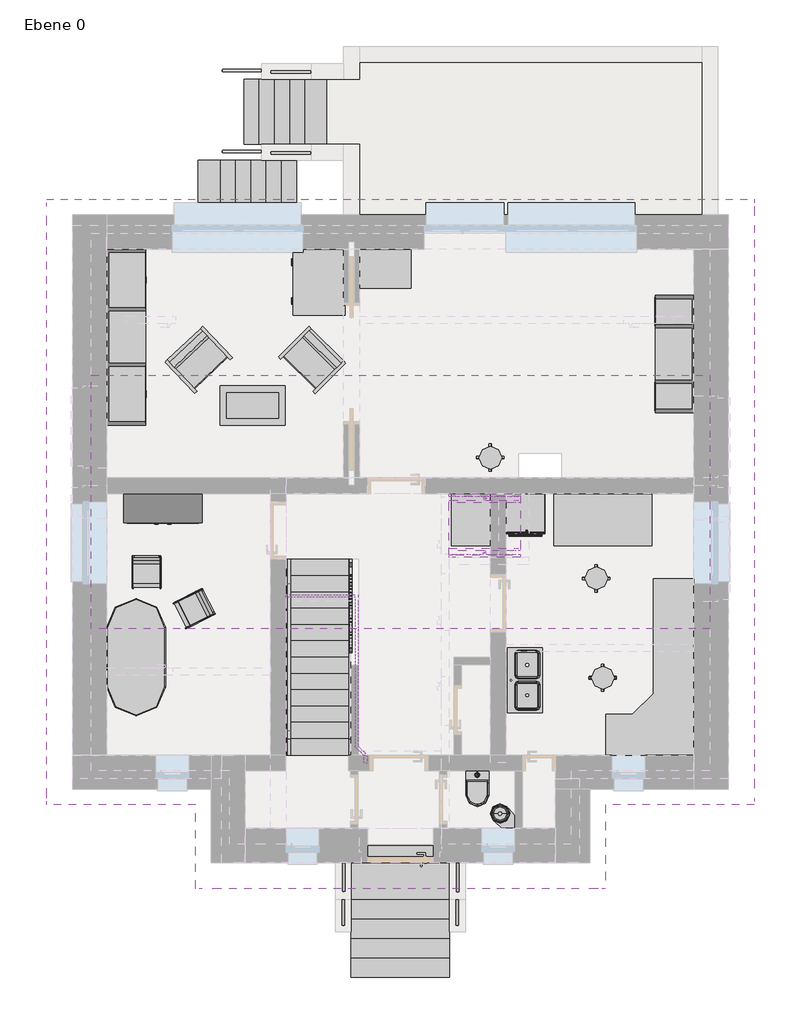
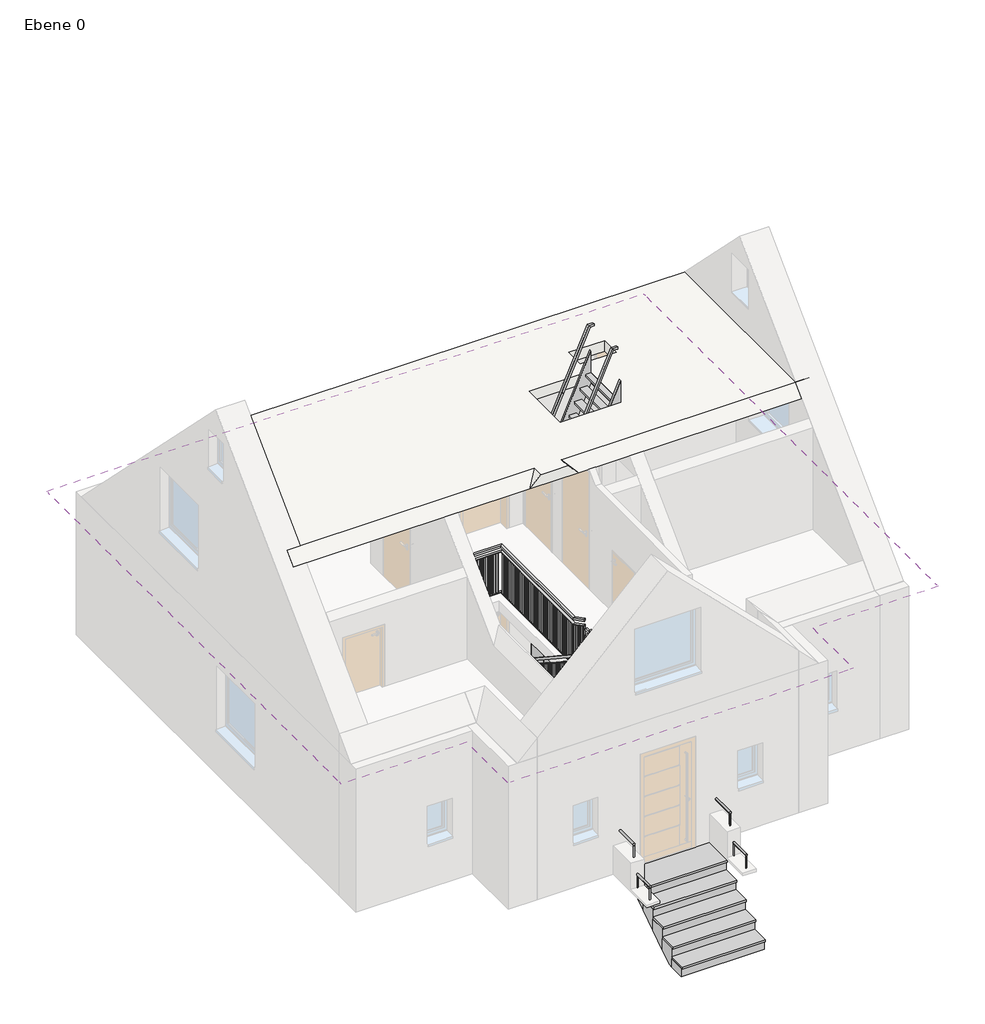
# One storey, part 3 of 3: 17 furniture elements, 16 railings, 5 stair flights, 4 members, 3 flow terminals, 2 proxies, 2 slabs, 1 roof.
"""IFC4 building model written with IfcOpenShell, lengths in millimetres."""

from ifc_helpers import new_model, si_unit, frame, origin, place, context, project, spatial, polyline, outline, extrude, faceted_brep, transform, mapped, element, save
from components import electrical_equipment_04802fdb, electrical_equipment_621d5f77, flow_terminal_1000_x_535_82328010, flow_terminal_35_x_55cm_6441f3d0, waschbecken_03_waschbecken_093a886d, furniture_1000_x_600_x_450_2671d195, furniture_1000_x_760_x_760_02e18f98, furniture_800_x_600_x_800_ba27f6a6, schrank_09_1200_x_450_x_2200_a26f84f2, schrank_12_1800_x_600_x_1800_5341ef42, schrank_12_2700_x_600_x_2100_568bd233, sofa_05_b_800_2b4523ea, stuhl_04_typ1_6c77dc19, tisch_08_oval_1800_x_900_glas_ae678d82, tisch_17_1500_x_800_x_750_a301e799, typ1_ea9e3636, typ1_24384e5f, railing_ba4ef4f0, railing_844731f6, railing_05958358, railing_5f183d00, railing_986e0a8e, railing_a572a345, railing_46543788, railing_ffa2e5ba, railing_02694adf, railing_c6eb6142, railing_c633e56d, railing_068a3bbe, handlauf_holz_37a11ede, handlauf_holz_fd729e07, handlauf_holz_bf88dba0, handlauf_holz_f6a84104, stair_flight_0ae1a87a, stair_flight_21483602

model = new_model("IFC4")

# Units and contexts
model_context = context("Model", 3, world=origin())
ifc_project = project(units=[si_unit("LENGTHUNIT", "METRE", prefix="MILLI")], contexts=[model_context])

# Site, building, storey
site = spatial("IfcSite", under=ifc_project)
building = spatial("IfcBuilding", under=site)
storey = spatial("IfcBuildingStorey", under=building, Name="Ebene 0", Elevation=1000.0)

# Proxies
placement = place(None, origin())
electrical_equipment_shape = electrical_equipment_04802fdb(model_context)
element("IfcBuildingElementProxy", 1, Name="Backofen-Herdplatte-Kombi : 850  x 597  x 597", ObjectType="Backofen-Herdplatte-Kombi : 850  x 597  x 597", at=placement, inside=storey, context=model_context, shape_type="MappedRepresentation", body=[
    mapped(electrical_equipment_shape, transform((4658.6733882, 5200.0, 1100.0), x_axis=(1.0, 0.0, 0.0), y_axis=(0.0, 1.0, 0.0), z_axis=(0.0, 0.0, 1.0))),
])
electrical_equipment_2_shape = electrical_equipment_621d5f77(model_context)
element("IfcBuildingElementProxy", 2, Name="Glas-Kochfläche-6fach eingefasst-Kante : 576  x 516", ObjectType="Glas-Kochfläche-6fach eingefasst-Kante : 576  x 516", at=placement, inside=storey, context=model_context, shape_type="MappedRepresentation", body=[
    mapped(electrical_equipment_2_shape, transform((4663.5, 5201.5, 1950.0), x_axis=(1.0, 0.0, 0.0), y_axis=(0.0, 1.0, 0.0), z_axis=(0.0, 0.0, 1.0))),
])

# Flow terminals
flow_terminal_1000_x_535_shape = flow_terminal_1000_x_535_82328010(model_context)
element("IfcFlowTerminal", 3, ObjectType="Spülbecken Küche-Doppelt : 1000 x 535", at=placement, inside=storey, context=model_context, shape_type="MappedRepresentation", body=[
    mapped(flow_terminal_1000_x_535_shape, transform((4655.5454011, 2622.4107594, 1800.0), x_axis=(0.0, 1.0, 0.0), y_axis=(-1.0, 0.0, 0.0), z_axis=(0.0, 0.0, 1.0))),
])
flow_terminal_35_x_55cm_shape = flow_terminal_35_x_55cm_6441f3d0(model_context)
element("IfcFlowTerminal", 4, ObjectType="WC AP-Druckspüler : 35 x 55cm", at=placement, inside=storey, context=model_context, shape_type="MappedRepresentation", body=[
    mapped(flow_terminal_35_x_55cm_shape, transform((3925.0, 1250.0, 1100.0), x_axis=(1.0, 0.0, 0.0), y_axis=(0.0, 1.0, 0.0), z_axis=(0.0, 0.0, 1.0))),
])
waschbecken_03_waschbecken_shape = waschbecken_03_waschbecken_093a886d(model_context)
element("IfcFlowTerminal", 5, ObjectType="Waschbecken 03 : Waschbecken", at=placement, inside=storey, context=model_context, shape_type="MappedRepresentation", body=[
    mapped(waschbecken_03_waschbecken_shape, transform((4500.0, 376.4966705, 1100.0), x_axis=(-0.9997802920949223, -0.02096109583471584, 0.0), y_axis=(0.02096109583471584, -0.9997802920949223, 0.0), z_axis=(0.0, 0.0, 1.0))),
])

# Furniture
furniture_1000_x_600_x_450_shape = furniture_1000_x_600_x_450_2671d195(model_context)
element("IfcFurniture", 6, ObjectType="Tisch-05 Glasausschnitt : 1000 x 600 x 450", at=placement, inside=storey, context=model_context, shape_type="MappedRepresentation", body=[
    mapped(furniture_1000_x_600_x_450_shape, transform((456.7342333, 6754.7889222, 1000.0), x_axis=(1.0, 0.0, 0.0), y_axis=(0.0, 1.0, 0.0), z_axis=(0.0, 0.0, 1.0))),
])
furniture_1000_x_760_x_760_shape = furniture_1000_x_760_x_760_02e18f98(model_context)
element("IfcFurniture", 7, ObjectType="Schreibtisch-06 : 1000 x 760 x 760", at=placement, inside=storey, context=model_context, shape_type="MappedRepresentation", body=[
    mapped(furniture_1000_x_760_x_760_shape, transform((1114.0, 9512.0, 1000.0), x_axis=(0.0, -1.0, 0.0), y_axis=(1.0, 0.0, 0.0), z_axis=(0.0, 0.0, 1.0))),
])
furniture_800_x_600_x_800_shape = furniture_800_x_600_x_800_ba27f6a6(model_context)
element("IfcFurniture", 8, ObjectType="Kommode-01 : 800 x 600 x 800", at=placement, inside=storey, context=model_context, shape_type="MappedRepresentation", body=[
    mapped(furniture_800_x_600_x_800_shape, transform((3725.0, 5100.0, 1000.0), x_axis=(0.0, -1.0, 0.0), y_axis=(1.0, 0.0, 0.0), z_axis=(0.0, 0.0, 1.0))),
])
element("IfcFurniture", 9, ObjectType="Kommode-01 : 800 x 600 x 800", at=placement, inside=storey, context=model_context, shape_type="MappedRepresentation", body=[
    mapped(furniture_800_x_600_x_800_shape, transform((2505.0, 8850.0, 1000.0), x_axis=(1.0, 0.0, 0.0), y_axis=(0.0, 1.0, 0.0), z_axis=(0.0, 0.0, 1.0))),
])
schrank_09_1200_x_450_x_2200_shape = schrank_09_1200_x_450_x_2200_a26f84f2(model_context)
element("IfcFurniture", 10, ObjectType="Schrank-09 : 1200 x 450 x 2200", at=placement, inside=storey, context=model_context, shape_type="MappedRepresentation", body=[
    mapped(schrank_09_1200_x_450_x_2200_shape, transform((-630.8067402, 5638.1629541, 1000.0), x_axis=(1.0, 0.0, 0.0), y_axis=(0.0, 1.0, 0.0), z_axis=(0.0, 0.0, 1.0))),
])
schrank_12_1800_x_600_x_1800_shape = schrank_12_1800_x_600_x_1800_5341ef42(model_context)
element("IfcFurniture", 11, ObjectType="Schrank-12 : 1800 x 600 x 1800", at=placement, inside=storey, context=model_context, shape_type="MappedRepresentation", body=[
    mapped(schrank_12_1800_x_600_x_1800_shape, transform((7356.4, 7640.0, 1000.0), x_axis=(0.0, -1.0, 0.0), y_axis=(1.0, 0.0, 0.0), z_axis=(0.0, 0.0, 1.0))),
])
schrank_12_2700_x_600_x_2100_shape = schrank_12_2700_x_600_x_2100_568bd233(model_context)
element("IfcFurniture", 12, ObjectType="Schrank-12 : 2700 x 600 x 2100", at=placement, inside=storey, context=model_context, shape_type="MappedRepresentation", body=[
    mapped(schrank_12_2700_x_600_x_2100_shape, transform((-1866.4, 7900.0, 1000.0), x_axis=(0.0, 1.0, 0.0), y_axis=(-1.0, 0.0, 0.0), z_axis=(0.0, 0.0, 1.0))),
])
sofa_05_b_800_shape = sofa_05_b_800_2b4523ea(model_context)
element("IfcFurniture", 13, ObjectType="Sofa-05 : B 800", at=placement, inside=storey, context=model_context, shape_type="MappedRepresentation", body=[
    mapped(sofa_05_b_800_shape, transform((-300.7139071, 7395.4558069, 1000.0), x_axis=(0.7265975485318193, 0.6870633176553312, 0.0), y_axis=(-0.6870633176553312, 0.7265975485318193, 0.0), z_axis=(0.0, 0.0, 1.0))),
])
element("IfcFurniture", 14, ObjectType="Sofa-05 : B 800", at=placement, inside=storey, context=model_context, shape_type="MappedRepresentation", body=[
    mapped(sofa_05_b_800_shape, transform((1236.893994, 7496.4128979, 1000.0), x_axis=(0.7071067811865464, -0.7071067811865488, 0.0), y_axis=(0.7071067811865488, 0.7071067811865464, 0.0), z_axis=(0.0, 0.0, 1.0))),
])
stuhl_04_typ1_shape = stuhl_04_typ1_6c77dc19(model_context)
element("IfcFurniture", 15, ObjectType="Stuhl-04 : Typ1", at=placement, inside=storey, context=model_context, shape_type="MappedRepresentation", body=[
    mapped(stuhl_04_typ1_shape, transform((-797.8947, 4524.7408621, 1000.0), x_axis=(1.0, 0.0, 0.0), y_axis=(0.0, 1.0, 0.0), z_axis=(0.0, 0.0, 1.0))),
])
element("IfcFurniture", 16, ObjectType="Stuhl-04 : Typ1", at=placement, inside=storey, context=model_context, shape_type="MappedRepresentation", body=[
    mapped(stuhl_04_typ1_shape, transform((-57.5438469, 3524.477641, 1000.0), x_axis=(0.4470333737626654, -0.8945172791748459, 0.0), y_axis=(0.8945172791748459, 0.4470333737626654, 0.0), z_axis=(0.0, 0.0, 1.0))),
])
tisch_08_oval_1800_x_900_glas_shape = tisch_08_oval_1800_x_900_glas_ae678d82(model_context)
element("IfcFurniture", 17, ObjectType="Tisch-08 oval : 1800 x 900 Glas", at=placement, inside=storey, context=model_context, shape_type="MappedRepresentation", body=[
    mapped(tisch_08_oval_1800_x_900_glas_shape, transform((-1668.0983607, 3391.8196721, 1000.0), x_axis=(0.0, 1.0, 0.0), y_axis=(-1.0, 0.0, 0.0), z_axis=(0.0, 0.0, 1.0))),
])
tisch_17_1500_x_800_x_750_shape = tisch_17_1500_x_800_x_750_a301e799(model_context)
element("IfcFurniture", 18, ObjectType="Tisch-17 : 1500 x 800 x 750", at=placement, inside=storey, context=model_context, shape_type="MappedRepresentation", body=[
    mapped(tisch_17_1500_x_800_x_750_shape, transform((5834.682456, 5060.8700593, 1100.0), x_axis=(1.0, 0.0, 0.0), y_axis=(0.0, 1.0, 0.0), z_axis=(0.0, 0.0, 1.0))),
])
typ1_shape = typ1_ea9e3636(model_context)
element("IfcFurniture", 19, ObjectType="Küchenzeile-05 Kombination : Typ1", at=placement, inside=storey, context=model_context, shape_type="MappedRepresentation", body=[
    mapped(typ1_shape, transform((8240.9255592, 3558.8064056, 1100.0), x_axis=(0.0, -1.0, 0.0), y_axis=(1.0, 0.0, 0.0), z_axis=(0.0, 0.0, 1.0))),
])
typ1_2_shape = typ1_24384e5f(model_context)
element("IfcFurniture", 20, ObjectType="Hocker-04 : Typ1", at=placement, inside=storey, context=model_context, shape_type="MappedRepresentation", body=[
    mapped(typ1_2_shape, transform((5750.0, 4200.0, 1100.0), x_axis=(1.0, 0.0, 0.0), y_axis=(0.0, 1.0, 0.0), z_axis=(0.0, 0.0, 1.0))),
])
element("IfcFurniture", 21, ObjectType="Hocker-04 : Typ1", at=placement, inside=storey, context=model_context, shape_type="MappedRepresentation", body=[
    mapped(typ1_2_shape, transform((5850.0, 2675.0, 1100.0), x_axis=(1.0, 0.0, 0.0), y_axis=(0.0, 1.0, 0.0), z_axis=(0.0, 0.0, 1.0))),
])
element("IfcFurniture", 22, ObjectType="Hocker-04 : Typ1", at=placement, inside=storey, context=model_context, shape_type="MappedRepresentation", body=[
    mapped(typ1_2_shape, transform((4125.0, 6050.868232, 1000.0), x_axis=(1.0, 0.0, 0.0), y_axis=(0.0, 1.0, 0.0), z_axis=(0.0, 0.0, 1.0))),
])

# Members
element("IfcMember", 23, ObjectType="Holz 40 x 260", at=placement, inside=storey, context=model_context, shape_type="SweptSolid", body=[
    extrude(outline(polyline([(4490.0, -1001.5849467), (4490.0, -1200.0), (4320.9042035, -1200.0), (1490.0, 875.9964159), (1490.0, 1198.4150533), (4490.0, -1001.5849467)])), frame((1980.0, 0.0, 0.0), z_axis=(1.0, 0.0, 0.0), x_axis=(0.0, 1.0, 0.0)), (0.0, 0.0, 1.0), 40.0),
])
element("IfcMember", 24, ObjectType="Holz 40 x 260", at=placement, inside=storey, context=model_context, shape_type="SweptSolid", body=[
    extrude(outline(polyline([(4490.0, -1001.5849467), (4490.0, -1200.0), (4320.9042035, -1200.0), (1490.0, 875.9964159), (1490.0, 1198.4150533), (4490.0, -1001.5849467)])), frame((940.0, 0.0, 0.0), z_axis=(1.0, 0.0, 0.0), x_axis=(0.0, 1.0, 0.0)), (0.0, 0.0, 1.0), 40.0),
])
element("IfcMember", 25, ObjectType="Holz 40 x 260", at=placement, inside=storey, context=model_context, shape_type="SweptSolid", body=[
    extrude(outline(polyline([(4163.2481927, 3490.0), (3750.0, 3490.0), (3750.0, 3592.2260011), (6017.6681792, 4590.0), (6663.2481927, 4590.0), (4163.2481927, 3490.0)])), frame((0.0, 5460.0, 0.0), z_axis=(0.0, 1.0, 0.0), x_axis=(0.0, 0.0, 1.0)), (0.0, 0.0, 1.0), 40.0),
])
element("IfcMember", 26, ObjectType="Holz 40 x 260", at=placement, inside=storey, context=model_context, shape_type="SweptSolid", body=[
    extrude(outline(polyline([(4163.2481927, 3490.0), (3750.0, 3490.0), (3750.0, 3592.2260011), (6017.6681792, 4590.0), (6663.2481927, 4590.0), (4163.2481927, 3490.0)])), frame((0.0, 4520.0, 0.0), z_axis=(0.0, 1.0, 0.0), x_axis=(0.0, 0.0, 1.0)), (0.0, 0.0, 1.0), 40.0),
])

# Railings
railing_shape = railing_ba4ef4f0(model_context)
element("IfcRailing", 27, ObjectType="Vertikale Stäbe mit Handlauf", at=placement, inside=storey, context=model_context, shape_type="MappedRepresentation", body=[
    mapped(railing_shape, transform((0.0, 0.0, 0.0), x_axis=(1.0, 0.0, 0.0), y_axis=(0.0, 1.0, 0.0), z_axis=(0.0, 0.0, 1.0))),
])
railing_2_shape = railing_844731f6(model_context)
element("IfcRailing", 28, ObjectType="Vertikale Stäbe", at=placement, inside=storey, context=model_context, shape_type="MappedRepresentation", body=[
    mapped(railing_2_shape, transform((0.0, 0.0, 0.0), x_axis=(1.0, 0.0, 0.0), y_axis=(0.0, 1.0, 0.0), z_axis=(0.0, 0.0, 1.0))),
])
railing_3_shape = railing_05958358(model_context)
element("IfcRailing", 29, ObjectType="Geländer-1", at=placement, inside=storey, context=model_context, shape_type="MappedRepresentation", body=[
    mapped(railing_3_shape, transform((0.0, 0.0, 0.0), x_axis=(1.0, 0.0, 0.0), y_axis=(0.0, 1.0, 0.0), z_axis=(0.0, 0.0, 1.0))),
])
railing_4_shape = railing_5f183d00(model_context)
element("IfcRailing", 30, ObjectType="Geländer-1", at=placement, inside=storey, context=model_context, shape_type="MappedRepresentation", body=[
    mapped(railing_4_shape, transform((0.0, 0.0, 0.0), x_axis=(1.0, 0.0, 0.0), y_axis=(0.0, 1.0, 0.0), z_axis=(0.0, 0.0, 1.0))),
])
railing_5_shape = railing_986e0a8e(model_context)
element("IfcRailing", 31, ObjectType="Geländer-1", at=placement, inside=storey, context=model_context, shape_type="MappedRepresentation", body=[
    mapped(railing_5_shape, transform((0.0, 0.0, 0.0), x_axis=(1.0, 0.0, 0.0), y_axis=(0.0, 1.0, 0.0), z_axis=(0.0, 0.0, 1.0))),
])
railing_6_shape = railing_a572a345(model_context)
element("IfcRailing", 32, ObjectType="Geländer-1", at=placement, inside=storey, context=model_context, shape_type="MappedRepresentation", body=[
    mapped(railing_6_shape, transform((0.0, 0.0, 0.0), x_axis=(1.0, 0.0, 0.0), y_axis=(0.0, 1.0, 0.0), z_axis=(0.0, 0.0, 1.0))),
])
railing_7_shape = railing_46543788(model_context)
element("IfcRailing", 33, ObjectType="Vertikale Stäbe mit Handlauf", at=placement, inside=storey, context=model_context, shape_type="MappedRepresentation", body=[
    mapped(railing_7_shape, transform((0.0, 0.0, 0.0), x_axis=(1.0, 0.0, 0.0), y_axis=(0.0, 1.0, 0.0), z_axis=(0.0, 0.0, 1.0))),
])
railing_8_shape = railing_ffa2e5ba(model_context)
element("IfcRailing", 34, ObjectType="Vertikale Stäbe mit Handlauf", at=placement, inside=storey, context=model_context, shape_type="MappedRepresentation", body=[
    mapped(railing_8_shape, transform((0.0, 0.0, 0.0), x_axis=(1.0, 0.0, 0.0), y_axis=(0.0, 1.0, 0.0), z_axis=(0.0, 0.0, 1.0))),
])
railing_9_shape = railing_02694adf(model_context)
element("IfcRailing", 35, ObjectType="Geländer-1", at=placement, inside=storey, context=model_context, shape_type="MappedRepresentation", body=[
    mapped(railing_9_shape, transform((0.0, 0.0, 0.0), x_axis=(1.0, 0.0, 0.0), y_axis=(0.0, 1.0, 0.0), z_axis=(0.0, 0.0, 1.0))),
])
railing_10_shape = railing_c6eb6142(model_context)
element("IfcRailing", 36, ObjectType="Geländer-1", at=placement, inside=storey, context=model_context, shape_type="MappedRepresentation", body=[
    mapped(railing_10_shape, transform((0.0, 0.0, 0.0), x_axis=(1.0, 0.0, 0.0), y_axis=(0.0, 1.0, 0.0), z_axis=(0.0, 0.0, 1.0))),
])
railing_11_shape = railing_c633e56d(model_context)
element("IfcRailing", 37, ObjectType="Geländer-1", at=placement, inside=storey, context=model_context, shape_type="MappedRepresentation", body=[
    mapped(railing_11_shape, transform((0.0, 0.0, 0.0), x_axis=(1.0, 0.0, 0.0), y_axis=(0.0, 1.0, 0.0), z_axis=(0.0, 0.0, 1.0))),
])
railing_12_shape = railing_068a3bbe(model_context)
element("IfcRailing", 38, ObjectType="Geländer-1", at=placement, inside=storey, context=model_context, shape_type="MappedRepresentation", body=[
    mapped(railing_12_shape, transform((0.0, 0.0, 0.0), x_axis=(1.0, 0.0, 0.0), y_axis=(0.0, 1.0, 0.0), z_axis=(0.0, 0.0, 1.0))),
])
handlauf_holz_shape = handlauf_holz_37a11ede(model_context)
element("IfcRailing", 39, ObjectType="Handlauf Holz", at=placement, inside=storey, context=model_context, shape_type="MappedRepresentation", body=[
    mapped(handlauf_holz_shape, transform((0.0, 0.0, 0.0), x_axis=(1.0, 0.0, 0.0), y_axis=(0.0, 1.0, 0.0), z_axis=(0.0, 0.0, 1.0))),
])
handlauf_holz_2_shape = handlauf_holz_fd729e07(model_context)
element("IfcRailing", 40, ObjectType="Handlauf Holz", at=placement, inside=storey, context=model_context, shape_type="MappedRepresentation", body=[
    mapped(handlauf_holz_2_shape, transform((0.0, 0.0, 0.0), x_axis=(1.0, 0.0, 0.0), y_axis=(0.0, 1.0, 0.0), z_axis=(0.0, 0.0, 1.0))),
])
handlauf_holz_3_shape = handlauf_holz_bf88dba0(model_context)
element("IfcRailing", 41, ObjectType="Handlauf Holz", at=placement, inside=storey, context=model_context, shape_type="MappedRepresentation", body=[
    mapped(handlauf_holz_3_shape, transform((0.0, 0.0, 0.0), x_axis=(1.0, 0.0, 0.0), y_axis=(0.0, 1.0, 0.0), z_axis=(0.0, 0.0, 1.0))),
])
handlauf_holz_4_shape = handlauf_holz_f6a84104(model_context)
element("IfcRailing", 42, ObjectType="Handlauf Holz", at=placement, inside=storey, context=model_context, shape_type="MappedRepresentation", body=[
    mapped(handlauf_holz_4_shape, transform((0.0, 0.0, 0.0), x_axis=(1.0, 0.0, 0.0), y_axis=(0.0, 1.0, 0.0), z_axis=(0.0, 0.0, 1.0))),
])

# Roof
element("IfcRoof", 43, ObjectType="Ziegeldach 360", at=placement, inside=storey, context=model_context, shape_type="Brep", body=[
    faceted_brep([(3.0508653, 1128.0508653, 3753.0508653), (-2685.0, 1128.0508653, 3753.0508653), (-2685.0, 5370.0, 7995.0), (8175.0, 5370.0, 7995.0), (8175.0, 1128.0508653, 3753.0508653), (5486.9491347, 1128.0508653, 3753.0508653), (3190.0, 3425.0, 6050.0), (2990.0, 3625.0, 6250.0), (2745.0, 3870.0, 6495.0), (2500.0, 3625.0, 6250.0), (2300.0, 3425.0, 6050.0), (960.0, 2085.0, 4710.0), (750.0, 1875.0, 4500.0), (2745.0, 365.0, 6495.0), (2745.0, -160.0, 6495.0), (2745.0, -560.0, 6495.0), (3.0508653, -560.0, 3753.0508653), (5486.9491347, -560.0, 3753.0508653), (-2685.0, 9611.9491347, 3753.0508653), (8175.0, 9611.9491347, 3753.0508653), (5215.0, 5751.2341615, 7613.7658385), (5215.0, 6111.2341615, 7253.7658385), (4565.0, 6111.2341615, 7253.7658385), (4565.0, 5751.2341615, 7613.7658385), (-400.0, 725.0, 3859.1168825), (2745.0, 3870.0, 7004.1168825), (5890.0, 725.0, 3859.1168825), (8175.0, 725.0, 3859.1168825), (8175.0, 5370.0, 8504.1168825), (-2685.0, 5370.0, 8504.1168825), (-2685.0, 725.0, 3859.1168825), (-400.0, -560.0, 3859.1168825), (2745.0, -560.0, 7004.1168825), (5890.0, -560.0, 3859.1168825), (8175.0, 10015.0, 3859.1168825), (-2685.0, 10015.0, 3859.1168825), (5215.0, 6111.2341615, 7762.8827209), (5215.0, 5751.2341615, 8122.8827209), (4565.0, 5751.2341615, 8122.8827209), (4565.0, 6111.2341615, 7762.8827209), (-293.9339828, -560.0, 3753.0508653), (-293.9339828, 831.0660172, 3753.0508653), (-2685.0, 831.0660172, 3753.0508653), (8175.0, 831.0660172, 3753.0508653), (5783.9339828, 831.0660172, 3753.0508653), (5783.9339828, -560.0, 3753.0508653), (-2685.0, 9908.9339828, 3753.0508653), (8175.0, 9908.9339828, 3753.0508653)], [[[0, 1, 2, 3, 4, 5, 6, 7, 8, 9, 10, 11, 12]], [[0, 12, 11, 10, 9, 8, 13, 14, 15, 16]], [[8, 7, 6, 5, 17, 15, 14, 13]], [[3, 2, 18, 19], [20, 21, 22, 23]], [[24, 25, 26, 27, 28, 29, 30]], [[25, 24, 31, 32]], [[26, 25, 32, 33]], [[29, 28, 34, 35], [36, 37, 38, 39]], [[1, 0, 16, 40, 41, 42]], [[5, 4, 43, 44, 45, 17]], [[19, 18, 46, 47]], [[2, 1, 42, 30, 29, 35, 46, 18]], [[16, 15, 17, 45, 33, 32, 31, 40]], [[4, 3, 19, 47, 34, 28, 27, 43]], [[24, 30, 42, 41]], [[31, 24, 41, 40]], [[26, 33, 45, 44]], [[27, 26, 44, 43]], [[35, 34, 47, 46]], [[20, 37, 36, 21]], [[21, 36, 39, 22]], [[22, 39, 38, 23]], [[37, 20, 23, 38]]]),
])

# Slabs
element("IfcSlab", 44, ObjectType="STB 200", at=placement, inside=storey, context=model_context, shape_type="Brep", body=[
    faceted_brep([(1995.0, 12235.0, 800.0), (7375.0, 12235.0, 800.0), (7495.0, 12235.0, 800.0), (7495.0, 9615.0, 800.0), (7375.0, 9615.0, 800.0), (2115.0, 9615.0, 800.0), (1995.0, 9615.0, 800.0), (1995.0, 10735.0, 800.0), (1875.0, 10735.0, 800.0), (1620.0, 10735.0, 800.0), (1620.0, 11855.0, 800.0), (1995.0, 11855.0, 800.0), (7495.0, 12235.0, 1000.0), (7375.0, 12235.0, 1000.0), (1995.0, 12235.0, 1000.0), (1995.0, 11855.0, 1000.0), (1875.0, 11855.0, 1000.0), (1620.0, 11855.0, 1000.0), (1620.0, 10855.0, 1000.0), (1620.0, 10735.0, 1000.0), (1875.0, 10735.0, 1000.0), (1995.0, 10735.0, 1000.0), (1995.0, 9615.0, 1000.0), (7495.0, 9615.0, 1000.0), (1620.0, 11855.0, 960.0), (1620.0, 10855.0, 960.0), (1620.0, 10845.0, 960.0), (1620.0, 10845.0, 850.0), (1620.0, 11855.0, 850.0), (1630.0, 11855.0, 850.0), (1630.0, 11855.0, 960.0), (1630.0, 10845.0, 960.0), (1630.0, 10845.0, 850.0)], [[[0, 1, 2, 3, 4, 5, 6, 7, 8, 9, 10, 11]], [[12, 13, 14, 15, 16, 17, 18, 19, 20, 21, 22, 23]], [[2, 1, 0, 14, 13, 12]], [[3, 2, 12, 23]], [[6, 5, 4, 3, 23, 22]], [[7, 6, 22, 21]], [[9, 8, 7, 21, 20, 19]], [[10, 9, 19, 18, 17, 24, 25, 26, 27, 28]], [[11, 10, 28, 29, 30, 24, 17, 16, 15]], [[0, 11, 15, 14]], [[30, 31, 26, 25, 24]], [[27, 32, 29, 28]], [[31, 32, 27, 26]], [[32, 31, 30, 29]]]),
])
element("IfcSlab", 45, ObjectType="STB 200", at=placement, inside=storey, context=model_context, shape_type="Brep", body=[
    faceted_brep([(7490.0, 7315.0, 6050.0), (7490.0, 3425.0, 6050.0), (3190.0, 3425.0, 6050.0), (2300.0, 3425.0, 6050.0), (-1760.0, 3425.0, 6050.0), (-2000.0, 3425.0, 6050.0), (-2000.0, 7315.0, 6050.0), (-1760.0, 7315.0, 6050.0), (3490.0, 4520.0, 6050.0), (4590.0, 4520.0, 6050.0), (4590.0, 5500.0, 6050.0), (3490.0, 5500.0, 6050.0), (5215.0, 5751.2341615, 6050.0), (5215.0, 6111.2341615, 6050.0), (4565.0, 6111.2341615, 6050.0), (4565.0, 5751.2341615, 6050.0), (-2000.0, 7115.0, 6250.0), (-2000.0, 3625.0, 6250.0), (-1760.0, 3625.0, 6250.0), (2500.0, 3625.0, 6250.0), (2500.0, 3425.0, 6250.0), (2990.0, 3425.0, 6250.0), (2990.0, 3625.0, 6250.0), (7490.0, 3625.0, 6250.0), (7490.0, 7115.0, 6250.0), (-1760.0, 7115.0, 6250.0), (4590.0, 4520.0, 6250.0), (3490.0, 4520.0, 6250.0), (3490.0, 5500.0, 6250.0), (4590.0, 5500.0, 6250.0), (5215.0, 6111.2341615, 6250.0), (5215.0, 5751.2341615, 6250.0), (4565.0, 5751.2341615, 6250.0), (4565.0, 6111.2341615, 6250.0)], [[[0, 1, 2, 3, 4, 5, 6, 7], [8, 9, 10, 11], [12, 13, 14, 15]], [[16, 17, 18, 19, 20, 21, 22, 23, 24, 25], [26, 27, 28, 29], [30, 31, 32, 33]], [[1, 0, 24, 23]], [[3, 2, 21, 20]], [[6, 5, 17, 16]], [[3, 19, 18, 17, 5, 4]], [[22, 2, 1, 23]], [[19, 3, 20]], [[2, 22, 21]], [[0, 7, 6, 16, 25, 24]], [[9, 8, 27, 26]], [[10, 9, 26, 29]], [[11, 10, 29, 28]], [[8, 11, 28, 27]], [[12, 31, 30, 13]], [[13, 30, 33, 14]], [[14, 33, 32, 15]], [[31, 12, 15, 32]]]),
])

# Stair flights
element("IfcStairFlight", 46, ObjectType="Naturstein - Auftritt 40 / Trittüberstand 30", at=placement, inside=storey, context=model_context, shape_type="SolidModel", body=[
    faceted_brep([(610.0, 11855.0, 160.0), (375.0, 11855.0, 160.0), (375.0, 10855.0, 160.0), (610.0, 10855.0, 160.0), (610.0, 11855.0, 0.0), (375.0, 11855.0, 0.0), (375.0, 10855.0, 0.0), (610.0, 10855.0, 0.0), (845.0, 11855.0, 360.0), (610.0, 11855.0, 360.0), (610.0, 10855.0, 360.0), (845.0, 10855.0, 360.0), (845.0, 11855.0, 123.6366517), (699.7269342, 11855.0, 0.0), (699.7269342, 10855.0, 0.0), (845.0, 10855.0, 123.6366517), (1080.0, 11855.0, 560.0), (845.0, 11855.0, 560.0), (845.0, 10855.0, 560.0), (1080.0, 10855.0, 560.0), (1080.0, 11855.0, 323.6366517), (1080.0, 10855.0, 323.6366517), (1315.0, 11855.0, 760.0), (1080.0, 11855.0, 760.0), (1080.0, 10855.0, 760.0), (1315.0, 10855.0, 760.0), (1315.0, 11855.0, 523.6366517), (1315.0, 10855.0, 523.6366517), (1315.0, 11855.0, 960.0), (1315.0, 10855.0, 960.0), (1620.0, 10855.0, 960.0), (1620.0, 11855.0, 960.0), (1620.0, 11855.0, 860.0), (1520.0, 11855.0, 860.0), (1520.0, 11855.0, 698.1047368), (1520.0, 10855.0, 698.1047368), (1520.0, 10855.0, 860.0), (1620.0, 10855.0, 860.0)], [[[0, 1, 2, 3]], [[1, 0, 4, 5]], [[2, 1, 5, 6]], [[3, 2, 6, 7]], [[8, 9, 10, 11]], [[4, 0, 9, 8, 12, 13]], [[0, 3, 10, 9]], [[3, 7, 14, 15, 11, 10]], [[16, 17, 18, 19]], [[17, 16, 20, 12, 8]], [[8, 11, 18, 17]], [[19, 18, 11, 15, 21]], [[22, 23, 24, 25]], [[23, 22, 26, 20, 16]], [[16, 19, 24, 23]], [[25, 24, 19, 21, 27]], [[28, 29, 30, 31]], [[28, 31, 32, 33, 34, 26, 22]], [[22, 25, 29, 28]], [[30, 29, 25, 27, 35, 36, 37]], [[35, 34, 33, 36]], [[5, 4, 13, 14, 7, 6]], [[14, 13, 12, 20, 26, 34, 35, 27, 21, 15]], [[37, 36, 33, 32]], [[37, 32, 31, 30]]]),
    extrude(outline(polyline([(610.0, 11855.0), (610.0, 10855.0), (345.0, 10855.0), (345.0, 11855.0), (610.0, 11855.0)])), frame((0.0, 0.0, 160.0), z_axis=(0.0, 0.0, 1.0), x_axis=(1.0, 0.0, 0.0)), (0.0, 0.0, 1.0), 40.0),
    extrude(outline(polyline([(845.0, 11855.0), (845.0, 10855.0), (580.0, 10855.0), (580.0, 11855.0), (845.0, 11855.0)])), frame((0.0, 0.0, 360.0), z_axis=(0.0, 0.0, 1.0), x_axis=(1.0, 0.0, 0.0)), (0.0, 0.0, 1.0), 40.0),
    extrude(outline(polyline([(1080.0, 11855.0), (1080.0, 10855.0), (815.0, 10855.0), (815.0, 11855.0), (1080.0, 11855.0)])), frame((0.0, 0.0, 560.0), z_axis=(0.0, 0.0, 1.0), x_axis=(1.0, 0.0, 0.0)), (0.0, 0.0, 1.0), 40.0),
    extrude(outline(polyline([(1315.0, 11855.0), (1315.0, 10855.0), (1050.0, 10855.0), (1050.0, 11855.0), (1315.0, 11855.0)])), frame((0.0, 0.0, 760.0), z_axis=(0.0, 0.0, 1.0), x_axis=(1.0, 0.0, 0.0)), (0.0, 0.0, 1.0), 40.0),
    extrude(outline(polyline([(1620.0, 11855.0), (1620.0, 10855.0), (1285.0, 10855.0), (1285.0, 11855.0), (1620.0, 11855.0)])), frame((0.0, 0.0, 960.0), z_axis=(0.0, 0.0, 1.0), x_axis=(1.0, 0.0, 0.0)), (0.0, 0.0, 1.0), 40.0),
])
element("IfcStairFlight", 47, ObjectType="Naturstein - Auftritt 40 / Trittüberstand 30", at=placement, inside=storey, context=model_context, shape_type="SolidModel", body=[
    faceted_brep([(885.0, 9615.0, -1040.0), (1120.0, 9615.0, -1040.0), (1120.0, 10615.0, -1040.0), (885.0, 10615.0, -1040.0), (885.0, 9615.0, -1200.0), (1120.0, 9615.0, -1200.0), (1120.0, 10615.0, -1200.0), (885.0, 10615.0, -1200.0), (650.0, 9615.0, -840.0), (885.0, 9615.0, -840.0), (885.0, 10615.0, -840.0), (650.0, 10615.0, -840.0), (650.0, 9615.0, -1076.3633483), (795.2730658, 9615.0, -1200.0), (795.2730658, 10615.0, -1200.0), (650.0, 10615.0, -1076.3633483), (415.0, 9615.0, -640.0), (650.0, 9615.0, -640.0), (650.0, 10615.0, -640.0), (415.0, 10615.0, -640.0), (415.0, 9615.0, -876.3633483), (415.0, 10615.0, -876.3633483), (180.0, 9615.0, -440.0), (415.0, 9615.0, -440.0), (415.0, 10615.0, -440.0), (180.0, 10615.0, -440.0), (180.0, 9615.0, -676.3633483), (180.0, 10615.0, -676.3633483), (-55.0, 9615.0, -476.3633483), (-260.0, 9615.0, -301.8952632), (-260.0, 10615.0, -301.8952632), (-55.0, 10615.0, -476.3633483), (-360.0, 10615.0, -140.0), (-260.0, 10615.0, -140.0), (-260.0, 9615.0, -140.0), (-360.0, 9615.0, -140.0), (-360.0, 9615.0, -40.0), (-360.0, 10615.0, -40.0), (-55.0, 9615.0, -240.0), (180.0, 9615.0, -240.0), (180.0, 10615.0, -240.0), (-55.0, 10615.0, -240.0), (-55.0, 9615.0, -40.0), (-55.0, 10615.0, -40.0)], [[[0, 1, 2, 3]], [[1, 0, 4, 5]], [[2, 1, 5, 6]], [[3, 2, 6, 7]], [[8, 9, 10, 11]], [[4, 0, 9, 8, 12, 13]], [[0, 3, 10, 9]], [[3, 7, 14, 15, 11, 10]], [[16, 17, 18, 19]], [[17, 16, 20, 12, 8]], [[8, 11, 18, 17]], [[19, 18, 11, 15, 21]], [[22, 23, 24, 25]], [[23, 22, 26, 20, 16]], [[16, 19, 24, 23]], [[25, 24, 19, 21, 27]], [[5, 4, 13, 14, 7, 6]], [[14, 13, 12, 20, 26, 28, 29, 30, 31, 27, 21, 15]], [[32, 33, 34, 35]], [[32, 35, 36, 37]], [[38, 39, 40, 41]], [[39, 38, 28, 26, 22]], [[22, 25, 40, 39]], [[41, 40, 25, 27, 31]], [[42, 43, 37, 36]], [[42, 36, 35, 34, 29, 28, 38]], [[38, 41, 43, 42]], [[37, 43, 41, 31, 30, 33, 32]], [[30, 29, 34, 33]]]),
    extrude(outline(polyline([(885.0, 9615.0), (885.0, 10615.0), (1150.0, 10615.0), (1150.0, 9615.0), (885.0, 9615.0)])), frame((0.0, 0.0, -1040.0), z_axis=(0.0, 0.0, 1.0), x_axis=(1.0, 0.0, 0.0)), (0.0, 0.0, 1.0), 40.0),
    extrude(outline(polyline([(650.0, 9615.0), (650.0, 10615.0), (915.0, 10615.0), (915.0, 9615.0), (650.0, 9615.0)])), frame((0.0, 0.0, -840.0), z_axis=(0.0, 0.0, 1.0), x_axis=(1.0, 0.0, 0.0)), (0.0, 0.0, 1.0), 40.0),
    extrude(outline(polyline([(415.0, 9615.0), (415.0, 10615.0), (680.0, 10615.0), (680.0, 9615.0), (415.0, 9615.0)])), frame((0.0, 0.0, -640.0), z_axis=(0.0, 0.0, 1.0), x_axis=(1.0, 0.0, 0.0)), (0.0, 0.0, 1.0), 40.0),
    extrude(outline(polyline([(180.0, 9615.0), (180.0, 10615.0), (445.0, 10615.0), (445.0, 9615.0), (180.0, 9615.0)])), frame((0.0, 0.0, -440.0), z_axis=(0.0, 0.0, 1.0), x_axis=(1.0, 0.0, 0.0)), (0.0, 0.0, 1.0), 40.0),
    extrude(outline(polyline([(-55.0, 9615.0), (-55.0, 10615.0), (210.0, 10615.0), (210.0, 9615.0), (-55.0, 9615.0)])), frame((0.0, 0.0, -240.0), z_axis=(0.0, 0.0, 1.0), x_axis=(1.0, 0.0, 0.0)), (0.0, 0.0, 1.0), 40.0),
    extrude(outline(polyline([(-360.0, 9615.0), (-360.0, 10615.0), (-25.0, 10615.0), (-25.0, 9615.0), (-360.0, 9615.0)])), frame((0.0, 0.0, -40.0), z_axis=(0.0, 0.0, 1.0), x_axis=(1.0, 0.0, 0.0)), (0.0, 0.0, 1.0), 40.0),
])
element("IfcStairFlight", 48, ObjectType="Naturstein - Auftritt 40 / Trittüberstand 30", at=placement, inside=storey, context=model_context, shape_type="SolidModel", body=[
    faceted_brep([(1990.0, -1590.0, 160.0), (1990.0, -1890.0, 160.0), (3500.0, -1890.0, 160.0), (3500.0, -1590.0, 160.0), (1990.0, -1590.0, 0.0), (1990.0, -1890.0, 0.0), (3500.0, -1890.0, 0.0), (3500.0, -1590.0, 0.0), (1990.0, -1290.0, 360.0), (1990.0, -1590.0, 360.0), (3500.0, -1590.0, 360.0), (3500.0, -1290.0, 360.0), (1990.0, -1290.0, 143.6669235), (1990.0, -1505.5003852, 0.0), (3500.0, -1505.5003852, 0.0), (3500.0, -1290.0, 143.6669235), (1990.0, -990.0, 560.0), (1990.0, -1290.0, 560.0), (3500.0, -1290.0, 560.0), (3500.0, -990.0, 560.0), (1990.0, -990.0, 343.6669235), (3500.0, -990.0, 343.6669235), (1990.0, -335.5003852, 780.0), (3500.0, -335.5003852, 780.0), (3500.0, -690.0, 543.6669235), (1990.0, -690.0, 543.6669235), (3500.0, 100.0, 860.0), (3500.0, 0.0, 860.0), (1990.0, 0.0, 860.0), (1990.0, 100.0, 860.0), (1990.0, 100.0, 960.0), (3500.0, 100.0, 960.0), (1990.0, 0.0, 780.0), (3500.0, 0.0, 780.0), (1990.0, -690.0, 760.0), (1990.0, -990.0, 760.0), (3500.0, -990.0, 760.0), (3500.0, -690.0, 760.0), (1990.0, -690.0, 960.0), (3500.0, -690.0, 960.0)], [[[0, 1, 2, 3]], [[1, 0, 4, 5]], [[2, 1, 5, 6]], [[3, 2, 6, 7]], [[8, 9, 10, 11]], [[4, 0, 9, 8, 12, 13]], [[0, 3, 10, 9]], [[3, 7, 14, 15, 11, 10]], [[16, 17, 18, 19]], [[17, 16, 20, 12, 8]], [[8, 11, 18, 17]], [[19, 18, 11, 15, 21]], [[5, 4, 13, 14, 7, 6]], [[22, 23, 24, 21, 15, 14, 13, 12, 20, 25]], [[26, 27, 28, 29]], [[26, 29, 30, 31]], [[23, 22, 32, 33]], [[34, 35, 36, 37]], [[35, 34, 25, 20, 16]], [[16, 19, 36, 35]], [[37, 36, 19, 21, 24]], [[38, 39, 31, 30]], [[34, 38, 30, 29, 28, 32, 22, 25]], [[34, 37, 39, 38]], [[31, 39, 37, 24, 23, 33, 27, 26]], [[33, 32, 28, 27]]]),
    extrude(outline(polyline([(1990.0, -1590.0), (3500.0, -1590.0), (3500.0, -1920.0), (1990.0, -1920.0), (1990.0, -1590.0)])), frame((0.0, 0.0, 160.0), z_axis=(0.0, 0.0, 1.0), x_axis=(1.0, 0.0, 0.0)), (0.0, 0.0, 1.0), 40.0),
    extrude(outline(polyline([(1990.0, -1290.0), (3500.0, -1290.0), (3500.0, -1620.0), (1990.0, -1620.0), (1990.0, -1290.0)])), frame((0.0, 0.0, 360.0), z_axis=(0.0, 0.0, 1.0), x_axis=(1.0, 0.0, 0.0)), (0.0, 0.0, 1.0), 40.0),
    extrude(outline(polyline([(1990.0, -990.0), (3500.0, -990.0), (3500.0, -1320.0), (1990.0, -1320.0), (1990.0, -990.0)])), frame((0.0, 0.0, 560.0), z_axis=(0.0, 0.0, 1.0), x_axis=(1.0, 0.0, 0.0)), (0.0, 0.0, 1.0), 40.0),
    extrude(outline(polyline([(1990.0, -690.0), (3500.0, -690.0), (3500.0, -1020.0), (1990.0, -1020.0), (1990.0, -690.0)])), frame((0.0, 0.0, 760.0), z_axis=(0.0, 0.0, 1.0), x_axis=(1.0, 0.0, 0.0)), (0.0, 0.0, 1.0), 40.0),
    extrude(outline(polyline([(1990.0, 100.0), (3500.0, 100.0), (3500.0, -720.0), (1990.0, -720.0), (1990.0, 100.0)])), frame((0.0, 0.0, 960.0), z_axis=(0.0, 0.0, 1.0), x_axis=(1.0, 0.0, 0.0)), (0.0, 0.0, 1.0), 40.0),
])
stair_flight_shape = stair_flight_0ae1a87a(model_context)
element("IfcStairFlight", 49, ObjectType="Holz_40 mm Auftritt", at=placement, inside=storey, context=model_context, shape_type="MappedRepresentation", body=[
    mapped(stair_flight_shape, transform((0.0, 0.0, 0.0), x_axis=(1.0, 0.0, 0.0), y_axis=(0.0, 1.0, 0.0), z_axis=(0.0, 0.0, 1.0))),
])
stair_flight_2_shape = stair_flight_21483602(model_context)
element("IfcStairFlight", 50, ObjectType="Holz_40 mm Auftritt", at=placement, inside=storey, context=model_context, shape_type="MappedRepresentation", body=[
    mapped(stair_flight_2_shape, transform((0.0, 0.0, 0.0), x_axis=(1.0, 0.0, 0.0), y_axis=(0.0, 1.0, 0.0), z_axis=(0.0, 0.0, 1.0))),
])

save(model, "model.ifc")
